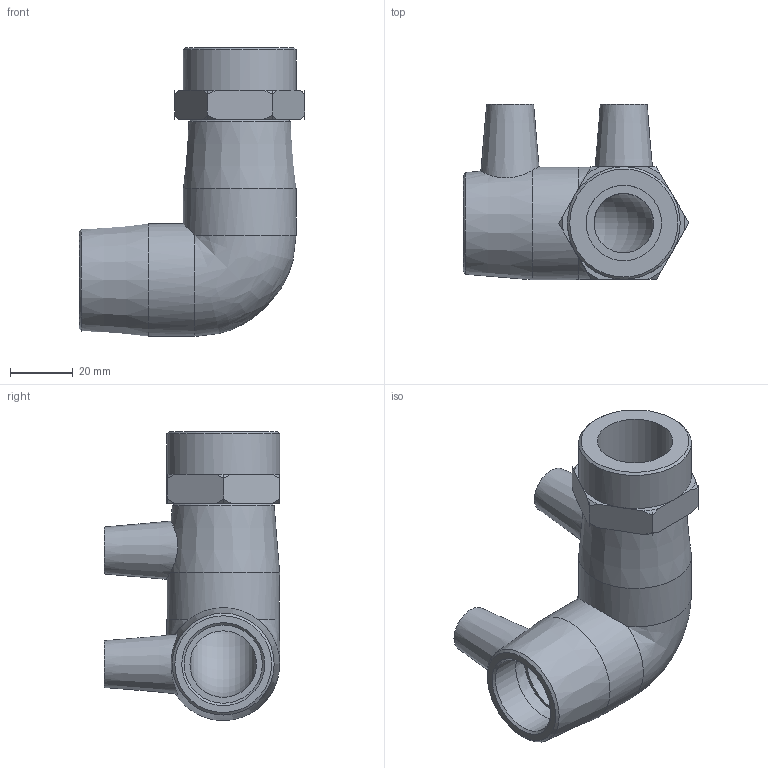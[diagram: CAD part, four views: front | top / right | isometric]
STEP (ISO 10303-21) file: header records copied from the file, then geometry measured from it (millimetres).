
FILE_DESCRIPTION(/* description */ ('PLASSON 90° ELBOW FEMALE TRANSITION 25-3/4'''''),/* implementation_level */ '2;1');
FILE_NAME(/* name */ 'C:\Dropbox\KIMPROJECTS-Inventor\99-16-3568-Processing\ElectroFusion Fittings\02.02.20\493504\493504025007.ipt.stp',/* time_stamp */ '2020-02-02T12:34:13+02:00',/* author */ ('KIM'),/* organization */ (''),/* preprocessor_version */ 'ST-DEVELOPER v15.6',/* originating_system */ 'Autodesk Inventor 2015',/* authorisation */ '');
FILE_SCHEMA (('AUTOMOTIVE_DESIGN { 1 0 10303 214 3 1 1 }'));
Length unit declared in the file: millimetre
Products named in the file (1): 493504025007
Bounding box: 72.08 x 56.05 x 92.3 mm (x, y, z)
Volume: 79664.8 mm3; surface area: 28139.5 mm2
Topology: 2 solids, 2 shells, 78 faces, 196 edges, 129 vertices
Faces by surface type: plane 27, cylinder 25, cone 24, bspline 1, torus 1
Full cylindrical faces by diameter (mm): 4 x2, 10 x2, 19 x1, 24.117 x1, 25 x4, 36 x3
Entity records: 2321 total; most frequent: CARTESIAN_POINT 510, DIRECTION 368, ORIENTED_EDGE 320, EDGE_CURVE 160, AXIS2_PLACEMENT_3D 160, VERTEX_POINT 119, EDGE_LOOP 115, CIRCLE 81
